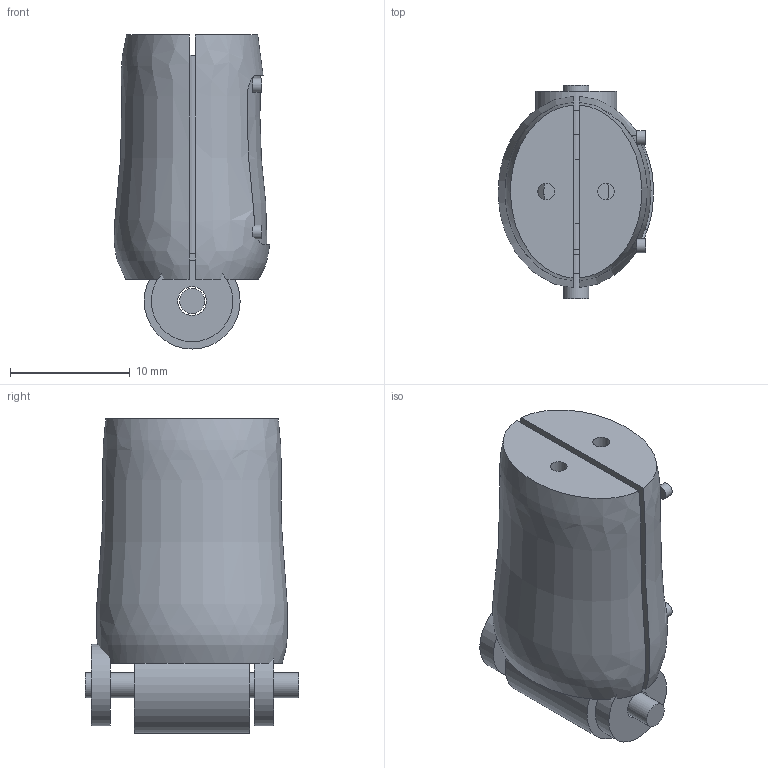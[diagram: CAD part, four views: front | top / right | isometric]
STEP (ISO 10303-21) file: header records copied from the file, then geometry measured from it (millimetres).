
FILE_DESCRIPTION(('FreeCAD Model'),'2;1');
FILE_NAME('Open CASCADE Shape Model','2026-10-05T09:22:55',('Author'),( ''),'Open CASCADE STEP processor 7.8','FreeCAD','Unknown');
FILE_SCHEMA(('AUTOMOTIVE_DESIGN { 1 0 10303 214 1 1 1 1 }'));
Length unit declared in the file: millimetre
Products named in the file (13): Export_index_intermediate; index_intermediateDorsalShell; index_intermediateFlexorShell; index_intermediateInsetPad; index_intermediateCore; index_intermediateHingeBarrel; index_intermediateCheek-1; index_intermediateCheek1; index_intermediatePin; index_intermediateScrew_-1_0.24; index_intermediateScrew_-1_0.75; index_intermediateScrew_1_0.24; index_intermediateScrew_1_0.75
Assembly tree (12 placements, depth 2):
  Export_index_intermediate
    index_intermediateDorsalShell
    index_intermediateFlexorShell
    index_intermediateInsetPad
    index_intermediateCore
    index_intermediateHingeBarrel
    index_intermediateCheek-1
    index_intermediateCheek1
    index_intermediatePin
    index_intermediateScrew_-1_0.24
    index_intermediateScrew_-1_0.75
    index_intermediateScrew_1_0.24
    index_intermediateScrew_1_0.75
Bounding box: 12.97 x 17.84 x 26.2 mm (x, y, z)
Volume: 3750.4 mm3; surface area: 3363.5 mm2
Topology: 12 solids, 12 shells, 83 faces, 150 edges, 90 vertices
Faces by surface type: plane 38, cylinder 34, sphere 8, bspline 3
Full cylindrical faces by diameter (mm): 0.464 x4, 1.16 x4, 1.4 x2, 2.1 x1, 2.4 x3, 5.4 x1, 6.8 x2, 8 x1
Entity records: 3124 total; most frequent: CARTESIAN_POINT 1336, DIRECTION 356, ORIENTED_EDGE 288, AXIS2_PLACEMENT_3D 153, EDGE_CURVE 144, FACE_BOUND 98, EDGE_LOOP 98, VERTEX_POINT 90
